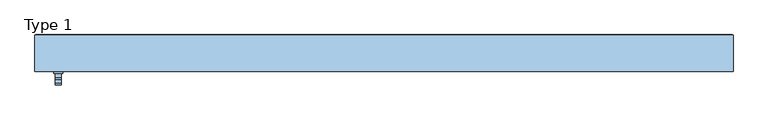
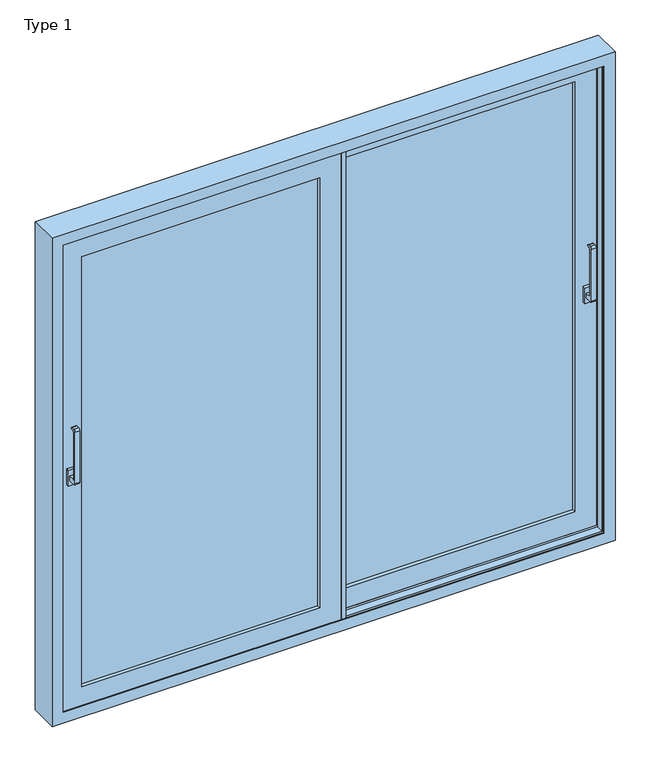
"""IFC4 building model written with IfcOpenShell, lengths in millimetres: window geometry, ETEM_E50_Double_Lift_Sliding : Type 1."""

from ifc_helpers import new_model, si_unit, point, frame, frame_2d, origin, place, context, project, spatial, polyline, circle_curve, trimmed, segment, composite_curve, outline, extrude, faceted_brep, source, transform, mapped, element, save


def type_1_0951141a(model_context):
    return source(origin(), model_context, "Body", "SolidModel", [
        extrude(outline(polyline([(1133.5, 36.3481944), (1103.5, 36.3481944), (1103.5, 49.3481944), (1133.5, 49.3481944), (1133.5, 36.3481944)])), frame((0.0, 0.0, 1065.0), z_axis=(0.0, 0.0, 1.0), x_axis=(1.0, 0.0, 0.0)), (0.0, 0.0, 1.0), 70.0),
        extrude(outline(composite_curve([segment(polyline([(36.3481944, 1090.0), (4.7745096, 1090.0)]), True, "CONTINUOUS"), segment(trimmed(circle_curve(frame_2d((4.7745096, 1098.4263152)), 8.4263152), [point((4.7745096, 1090.0))], [point((-3.6518056, 1098.4263152))], False, "CARTESIAN"), True, "CONTINUOUS"), segment(polyline([(-3.6518056, 1098.4263152), (-3.6518056, 1331.5736848)]), True, "CONTINUOUS"), segment(trimmed(circle_curve(frame_2d((4.7745096, 1331.5736848)), 8.4263152), [point((-3.6518056, 1331.5736848))], [point((4.7745096, 1340.0))], False, "CARTESIAN"), True, "CONTINUOUS"), segment(polyline([(4.7745096, 1340.0), (16.3481944, 1340.0)]), True, "CONTINUOUS"), segment(trimmed(circle_curve(frame_2d((16.3481944, 1335.0)), 5.0), [point((16.3481944, 1340.0))], [point((16.3481944, 1330.0))], False, "CARTESIAN"), True, "CONTINUOUS"), segment(polyline([(16.3481944, 1330.0), (9.8837283, 1330.0)]), True, "CONTINUOUS"), segment(trimmed(circle_curve(frame_2d((9.8837283, 1326.4644661)), 3.5355339), [point((9.8837283, 1330.0))], [point((6.3481944, 1326.4644661))], True, "CARTESIAN"), True, "CONTINUOUS"), segment(polyline([(6.3481944, 1326.4644661), (6.3481944, 1113.5355339)]), True, "CONTINUOUS"), segment(trimmed(circle_curve(frame_2d((9.8837283, 1113.5355339)), 3.5355339), [point((6.3481944, 1113.5355339))], [point((9.8837283, 1110.0))], True, "CARTESIAN"), True, "CONTINUOUS"), segment(polyline([(9.8837283, 1110.0), (36.3481944, 1110.0), (36.3481944, 1090.0)]), True, "CONTINUOUS")], self_intersect=False)), frame((1108.5, 0.0, 0.0), z_axis=(1.0, 0.0, 0.0), x_axis=(0.0, 1.0, 0.0)), (0.0, 0.0, 1.0), 20.0),
        extrude(outline(polyline([(-1104.999965, -28.6518056), (-1134.999965, -28.6518056), (-1134.999965, -15.6518056), (-1104.999965, -15.6518056), (-1104.999965, -28.6518056)])), frame((0.0, 0.0, 1065.0), z_axis=(0.0, 0.0, 1.0), x_axis=(1.0, 0.0, 0.0)), (0.0, 0.0, 1.0), 70.0),
        extrude(outline(composite_curve([segment(polyline([(-28.6518056, 1090.0), (-60.2254904, 1090.0)]), True, "CONTINUOUS"), segment(trimmed(circle_curve(frame_2d((-60.2254904, 1098.4263152)), 8.4263152), [point((-60.2254904, 1090.0))], [point((-68.6518056, 1098.4263152))], False, "CARTESIAN"), True, "CONTINUOUS"), segment(polyline([(-68.6518056, 1098.4263152), (-68.6518056, 1331.5736848)]), True, "CONTINUOUS"), segment(trimmed(circle_curve(frame_2d((-60.2254904, 1331.5736848)), 8.4263152), [point((-68.6518056, 1331.5736848))], [point((-60.2254904, 1340.0))], False, "CARTESIAN"), True, "CONTINUOUS"), segment(polyline([(-60.2254904, 1340.0), (-48.6518056, 1340.0)]), True, "CONTINUOUS"), segment(trimmed(circle_curve(frame_2d((-48.6518056, 1335.0)), 5.0), [point((-48.6518056, 1340.0))], [point((-48.6518056, 1330.0))], False, "CARTESIAN"), True, "CONTINUOUS"), segment(polyline([(-48.6518056, 1330.0), (-55.1162717, 1330.0)]), True, "CONTINUOUS"), segment(trimmed(circle_curve(frame_2d((-55.1162717, 1326.4644661)), 3.5355339), [point((-55.1162717, 1330.0))], [point((-58.6518056, 1326.4644661))], True, "CARTESIAN"), True, "CONTINUOUS"), segment(polyline([(-58.6518056, 1326.4644661), (-58.6518056, 1113.5355339)]), True, "CONTINUOUS"), segment(trimmed(circle_curve(frame_2d((-55.1162717, 1113.5355339)), 3.5355339), [point((-58.6518056, 1113.5355339))], [point((-55.1162717, 1110.0))], True, "CARTESIAN"), True, "CONTINUOUS"), segment(polyline([(-55.1162717, 1110.0), (-28.6518056, 1110.0), (-28.6518056, 1090.0)]), True, "CONTINUOUS")], self_intersect=False)), frame((-1129.999965, 0.0, 0.0), z_axis=(1.0, 0.0, 0.0), x_axis=(0.0, 1.0, 0.0)), (0.0, 0.0, 1.0), 20.0),
        faceted_brep([(35.5, -10.9518056, 2160.5), (35.5, -15.6518056, 2160.5), (35.5, -15.6518056, 39.5), (35.5, -10.9518056, 39.5), (-1160.499965, -15.6518056, 2160.5), (-1160.499965, -15.6518056, 39.5), (-56.0, -15.6518056, 131.0), (-1068.999965, -15.6518056, 131.0), (-1068.999965, -15.6518056, 2069.0), (-56.0, -15.6518056, 2069.0), (-1160.499965, -10.9518056, 39.5), (-1160.499965, -10.9518056, 2160.5), (6.3, -10.9518056, 2131.3), (-1131.299965, -10.9518056, 2131.3), (-1131.299965, -10.9518056, 68.7), (6.3, -10.9518056, 68.7), (6.3, 29.6481944, 2131.3), (6.3, 29.6481944, 68.7), (-1131.299965, 29.6481944, 68.7), (35.5, 29.6481944, 2160.5), (-1160.499965, 29.6481944, 2160.5), (-1160.499965, 29.6481944, 39.5), (35.5, 29.6481944, 39.5), (-1131.299965, 29.6481944, 2131.3), (35.5, 34.3481944, 2160.5), (35.5, 34.3481944, 39.5), (-1160.499965, 34.3481944, 39.5), (-1160.499965, 34.3481944, 2160.5), (-56.0, 34.3481944, 2069.0), (-1068.999965, 34.3481944, 2069.0), (-1068.999965, 34.3481944, 131.0), (-56.0, 34.3481944, 131.0)], [[[0, 1, 2, 3]], [[1, 4, 5, 2], [6, 7, 8, 9]], [[3, 2, 5, 10]], [[3, 10, 11, 0], [12, 13, 14, 15]], [[16, 12, 15, 17]], [[17, 15, 14, 18]], [[19, 20, 21, 22], [17, 18, 23, 16]], [[24, 19, 22, 25]], [[25, 22, 21, 26]], [[25, 26, 27, 24], [28, 29, 30, 31]], [[10, 5, 4, 11]], [[18, 14, 13, 23]], [[26, 21, 20, 27]], [[11, 4, 1, 0]], [[23, 13, 12, 16]], [[27, 20, 19, 24]], [[6, 31, 30, 7]], [[7, 30, 29, 8]], [[9, 28, 31, 6]], [[8, 29, 28, 9]]]),
        faceted_brep([(-35.5, 94.6481944, 2160.5), (-35.5, 99.3481944, 2160.5), (-35.5, 99.3481944, 39.5), (-35.5, 94.6481944, 39.5), (1160.499965, 99.3481944, 39.5), (1160.499965, 94.6481944, 39.5), (1160.499965, 99.3481944, 2160.5), (1069.0, 99.3481944, 130.999965), (1069.0, 99.3481944, 2069.000035), (55.999965, 99.3481944, 2069.000035), (55.999965, 99.3481944, 130.999965), (1160.499965, 94.6481944, 2160.5), (-6.3, 94.6481944, 68.7), (-6.3, 94.6481944, 2131.3), (1131.299965, 94.6481944, 2131.3), (1131.299965, 94.6481944, 68.7), (-6.3, 54.0481944, 2131.3), (-6.3, 54.0481944, 68.7), (1131.299965, 54.0481944, 68.7), (1131.299965, 54.0481944, 2131.3), (-35.5, 54.0481944, 39.5), (-35.5, 54.0481944, 2160.5), (1160.499965, 54.0481944, 2160.5), (1160.499965, 54.0481944, 39.5), (-35.5, 49.4240972, 2160.5), (-35.5, 49.4240972, 39.5), (1160.499965, 49.4240972, 39.5), (1160.499965, 49.4240972, 2160.5), (55.999965, 49.4240972, 130.999965), (55.999965, 49.4240972, 2069.000035), (1069.0, 49.4240972, 2069.000035), (1069.0, 49.4240972, 130.999965)], [[[0, 1, 2, 3]], [[3, 2, 4, 5]], [[2, 1, 6, 4], [7, 8, 9, 10]], [[5, 4, 6, 11]], [[5, 11, 0, 3], [12, 13, 14, 15]], [[16, 13, 12, 17]], [[17, 12, 15, 18]], [[18, 15, 14, 19]], [[20, 21, 22, 23], [18, 19, 16, 17]], [[24, 21, 20, 25]], [[25, 20, 23, 26]], [[26, 23, 22, 27]], [[26, 27, 24, 25], [28, 29, 30, 31]], [[9, 29, 28, 10]], [[10, 28, 31, 7]], [[7, 31, 30, 8]], [[11, 6, 1, 0]], [[19, 14, 13, 16]], [[27, 22, 21, 24]], [[8, 30, 29, 9]]]),
        extrude(outline(polyline([(55.999965, -15.6518056), (35.5, -15.6518056), (35.5, 45.3481944), (55.999965, 45.3481944), (55.999965, -15.6518056)])), frame((0.0, 0.0, 39.5), z_axis=(0.0, 0.0, 1.0), x_axis=(1.0, 0.0, 0.0)), (0.0, 0.0, 1.0), 2121.0),
        extrude(outline(polyline([(-56.0, 38.3481944), (-56.0, 99.3481944), (-35.5, 99.3481944), (-35.5, 38.3481944), (-56.0, 38.3481944)])), frame((0.0, 0.0, 39.5), z_axis=(0.0, 0.0, 1.0), x_axis=(1.0, 0.0, 0.0)), (0.0, 0.0, 1.0), 2121.0),
        extrude(outline(polyline([(-56.0, 0.3481944), (-1068.999965, 0.3481944), (-1068.999965, 5.3481944), (-56.0, 5.3481944), (-56.0, 0.3481944)])), frame((0.0, 0.0, 131.0), z_axis=(0.0, 0.0, 1.0), x_axis=(1.0, 0.0, 0.0)), (0.0, 0.0, 1.0), 1938.0),
        extrude(outline(polyline([(55.999965, 91.3480733), (1069.0, 91.3480733), (1069.0, 86.3480733), (55.999965, 86.3480733), (55.999965, 91.3480733)])), frame((0.0, 0.0, 130.999965), z_axis=(0.0, 0.0, 1.0), x_axis=(1.0, 0.0, 0.0)), (0.0, 0.0, 1.0), 1938.00007),
        faceted_brep([(-1196.499965, 103.5481944, 0.0), (-1196.499965, 105.0, 0.0), (-1151.499965, 105.0, 0.0), (-1151.499965, 103.5481944, 0.0), (1151.499965, 103.5481944, 0.0), (1151.499965, 105.0, 0.0), (1196.499965, 105.0, 0.0), (1196.499965, 103.5481944, 0.0), (1200.0, 103.5481944, 0.0), (1200.0, -21.2518056, 0.0), (-1200.0, -21.2518056, 0.0), (-1200.0, 103.5481944, 0.0), (-1151.499965, 105.0, 2151.499965), (-1151.499965, 101.4, 2151.499965), (-1151.499965, 101.4, 19.8), (-1151.499965, 103.5481944, 19.8), (1151.499965, 103.5481944, 19.8), (1200.0, 103.5481944, 2200.0), (1196.499965, 103.5481944, 2196.499965), (-1196.499965, 103.5481944, 2196.499965), (-1200.0, 103.5481944, 2200.0), (1151.499965, 105.0, 2151.499965), (1151.499965, 101.4, 19.8), (1151.499965, 101.4, 2151.499965), (1196.499965, 105.0, 2196.499965), (1200.0, -21.2518056, 2200.0), (-1200.0, -21.2518056, 2200.0), (1151.5, -21.2518056, 2151.5), (1151.5, -21.2518056, 48.5), (-1151.5, -21.2518056, 48.5), (-1151.5, -21.2518056, 2151.5), (-1196.499965, 105.0, 2196.499965), (1178.2, 78.8481944, 21.8), (1178.2, 92.0481944, 21.8), (-1178.2, 92.0481944, 21.8), (-1178.2, 78.8481944, 21.8), (1178.2, 78.8481944, 2178.2), (-1178.2, 78.8481944, 2178.2), (1159.5, 78.8481944, 40.5), (1159.5, 78.8481944, 2159.5), (-1159.5, 78.8481944, 2159.5), (-1159.5, 78.8481944, 40.5), (1159.5, 90.3481944, 2159.5), (1159.5, 90.3481944, 40.5), (-1159.5, 90.3481944, 40.5), (-1159.5, 90.3481944, 2159.5), (1151.5, 90.3481944, 48.5), (1151.5, 90.3481944, 2151.5), (-1151.5, 90.3481944, 2151.5), (-1151.5, 90.3481944, 48.5), (1151.5, 58.3481944, 2151.5), (1151.5, 58.3481944, 48.5), (-1151.5, 58.3481944, 48.5), (1178.2, 69.8481944, 21.8), (1178.2, 69.8481944, 2178.2), (-1178.2, 69.8481944, 2178.2), (-1178.2, 69.8481944, 21.8), (1159.5, 69.8481944, 40.5), (-1159.5, 69.8481944, 40.5), (-1159.5, 69.8481944, 2159.5), (1159.5, 69.8481944, 2159.5), (1178.2, 13.8481944, 2178.2), (1178.2, 13.8481944, 21.8), (-1178.2, 13.8481944, 21.8), (-1178.2, 13.8481944, 2178.2), (1159.5, 13.8481944, 40.5), (1159.5, 13.8481944, 2159.5), (-1159.5, 13.8481944, 2159.5), (-1159.5, 13.8481944, 40.5), (1151.5, -6.6518056, 2151.5), (1151.5, 25.3481944, 2151.5), (1151.5, 25.3481944, 48.5), (1151.5, -6.6518056, 48.5), (-1151.5, 25.3481944, 48.5), (-1151.5, -6.6518056, 48.5), (1159.5, -6.6518056, 2159.5), (-1159.5, -6.6518056, 2159.5), (-1159.5, -6.6518056, 40.5), (1159.5, -6.6518056, 40.5), (-1151.5, -6.6518056, 2151.5), (1159.5, 25.3481944, 2159.5), (1159.5, 25.3481944, 40.5), (-1159.5, 25.3481944, 40.5), (1178.2, 4.8481944, 21.8), (1178.2, 4.8481944, 2178.2), (-1178.2, 4.8481944, 2178.2), (-1178.2, 4.8481944, 21.8), (1159.5, 4.8481944, 40.5), (-1159.5, 4.8481944, 40.5), (-1159.5, 4.8481944, 2159.5), (1159.5, 4.8481944, 2159.5), (1178.2, -17.6518056, 2178.2), (1178.2, -17.6518056, 21.8), (-1178.2, -17.6518056, 21.8), (-1178.2, -17.6518056, 2178.2), (1151.5, -17.6518056, 48.5), (1151.5, -17.6518056, 2151.5), (-1151.5, -17.6518056, 2151.5), (-1151.5, -17.6518056, 48.5), (-1151.5, 58.3481944, 2151.5), (-1151.5, 25.3481944, 2151.5), (-1159.5, 25.3481944, 2159.5), (1159.5, 58.3481944, 40.5), (1159.5, 58.3481944, 2159.5), (-1159.5, 58.3481944, 2159.5), (-1159.5, 58.3481944, 40.5), (1178.199965, 101.4, 19.8), (1178.199965, 101.4, 2178.199965), (-1178.199965, 101.4, 2178.199965), (-1178.199965, 101.4, 19.8), (-1178.199965, 92.0481944, 19.8), (1178.199965, 92.0481944, 19.8)], [[[0, 1, 2, 3, 4, 5, 6, 7, 8, 9, 10, 11]], [[2, 12, 13, 14, 15, 3]], [[4, 3, 15, 16]], [[17, 8, 7, 18, 19, 0, 11, 20]], [[21, 5, 4, 16, 22, 23]], [[7, 6, 24, 18]], [[9, 25, 26, 10], [27, 28, 29, 30]], [[1, 0, 19, 31]], [[2, 1, 31, 24, 6, 5, 21, 12]], [[32, 33, 34, 35]], [[36, 32, 35, 37], [38, 39, 40, 41]], [[42, 39, 38, 43]], [[43, 38, 41, 44]], [[42, 43, 44, 45], [46, 47, 48, 49]], [[50, 47, 46, 51]], [[51, 46, 49, 52]], [[53, 54, 55, 56], [57, 58, 59, 60]], [[61, 54, 53, 62]], [[62, 53, 56, 63]], [[61, 62, 63, 64], [65, 66, 67, 68]], [[69, 70, 71, 72]], [[72, 71, 73, 74]], [[75, 76, 77, 78], [69, 72, 74, 79]], [[80, 66, 65, 81]], [[81, 65, 68, 82]], [[83, 84, 85, 86], [87, 88, 89, 90]], [[91, 84, 83, 92]], [[92, 83, 86, 93]], [[91, 92, 93, 94], [95, 96, 97, 98]], [[27, 96, 95, 28]], [[28, 95, 98, 29]], [[44, 41, 40, 45]], [[52, 49, 48, 99]], [[63, 56, 55, 64]], [[74, 73, 100, 79]], [[82, 68, 67, 101]], [[93, 86, 85, 94]], [[29, 98, 97, 30]], [[24, 31, 19, 18]], [[12, 21, 23, 13]], [[39, 42, 45, 40]], [[47, 50, 99, 48]], [[54, 61, 64, 55]], [[70, 69, 79, 100]], [[66, 80, 101, 67]], [[84, 91, 94, 85]], [[96, 27, 30, 97]], [[102, 103, 104, 105], [50, 51, 52, 99]], [[80, 81, 82, 101], [71, 70, 100, 73]], [[58, 57, 102, 105]], [[59, 58, 105, 104]], [[57, 60, 103, 102]], [[77, 76, 89, 88]], [[78, 77, 88, 87]], [[75, 78, 87, 90]], [[60, 59, 104, 103]], [[76, 75, 90, 89]], [[13, 23, 22, 106, 107, 108, 109, 14]], [[17, 25, 9, 8]], [[11, 10, 26, 20]], [[110, 111, 106, 22, 16, 15, 14, 109]], [[36, 107, 106, 111, 33, 32]], [[34, 33, 111, 110]], [[37, 35, 34, 110, 109, 108]], [[25, 17, 20, 26]], [[37, 108, 107, 36]]]),
        extrude(outline(polyline([(55.999965, 70.3481944), (1069.0, 70.3481944), (1069.0, 65.3481944), (55.999965, 65.3481944), (55.999965, 70.3481944)])), frame((0.0, 0.0, 130.999965), z_axis=(0.0, 0.0, 1.0), x_axis=(1.0, 0.0, 0.0)), (0.0, 0.0, 1.0), 1938.00007),
        extrude(outline(polyline([(-56.0, 21.3480733), (-1068.999965, 21.3480733), (-1068.999965, 26.3480733), (-56.0, 26.3480733), (-56.0, 21.3480733)])), frame((0.0, 0.0, 131.0), z_axis=(0.0, 0.0, 1.0), x_axis=(1.0, 0.0, 0.0)), (0.0, 0.0, 1.0), 1938.0),
    ])


if __name__ == "__main__":
    model = new_model("IFC4")
    model_context = context("Model", 3, world=origin())
    ifc_project = project(units=[si_unit("LENGTHUNIT", "METRE", prefix="MILLI")], contexts=[model_context])
    site = spatial("IfcSite", under=ifc_project)
    building = spatial("IfcBuilding", under=site)
    placement = place(None, origin())
    type_1_shape = type_1_0951141a(model_context)
    element("IfcWindow", 1, ObjectType="ETEM_E50_Double_Lift_Sliding : Type 1", at=placement, inside=building, context=model_context, shape_type="MappedRepresentation", body=[
        mapped(type_1_shape, transform((0.0, 0.0, 0.0), x_axis=(1.0, 0.0, 0.0), y_axis=(0.0, 1.0, 0.0), z_axis=(0.0, 0.0, 1.0))),
    ])
    save(model, "model.ifc")
